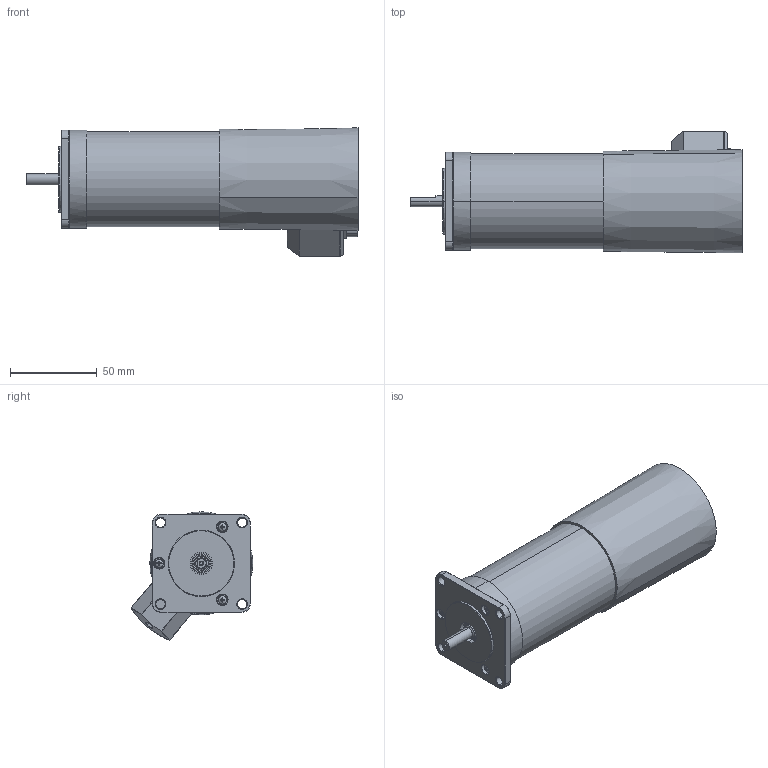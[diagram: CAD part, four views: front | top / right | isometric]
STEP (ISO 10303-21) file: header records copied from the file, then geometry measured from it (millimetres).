
FILE_DESCRIPTION((''),'2;1');
FILE_NAME('STEPPERASSY_ASM','2022-11-11T20:39:21',('Administrator'),(''),'CREO PARAMETRIC BY PTC INC, 2022014','CREO PARAMETRIC BY PTC INC, 2022014','');
FILE_SCHEMA(('AUTOMOTIVE_DESIGN { 1 0 10303 214 1 1 1 1 }'));
Length unit declared in the file: millimetre
Products named in the file (7): SF_STO; SF42; SHAFT_A; NEWBEARING_I42; CENT_MAC_PART_NEW_1; MAC_MOTOR_ASM; STEPPERASSY_ASM
Assembly tree (6 placements, depth 3):
  STEPPERASSY_ASM
    MAC_MOTOR_ASM
      SF_STO
      SF42
      SHAFT_A
      NEWBEARING_I42
      CENT_MAC_PART_NEW_1
Bounding box: 191.6 x 70.24 x 74.09 mm (x, y, z)
Volume: 266176.9 mm3; surface area: 82083.4 mm2
Topology: 15 solids, 15 shells, 894 faces, 2317 edges, 1474 vertices
Faces by surface type: plane 277, cylinder 261, cone 184, torus 78, sphere 54, bspline 40
Entity records: 45444 total; most frequent: CARTESIAN_POINT 11085, DIRECTION 4956, ORIENTED_EDGE 4480, EDGE_CURVE 2240, AXIS2_PLACEMENT_3D 2063, PRESENTATION_STYLE_ASSIGNMENT 1963, STYLED_ITEM 1586, CURVE_STYLE 1560
